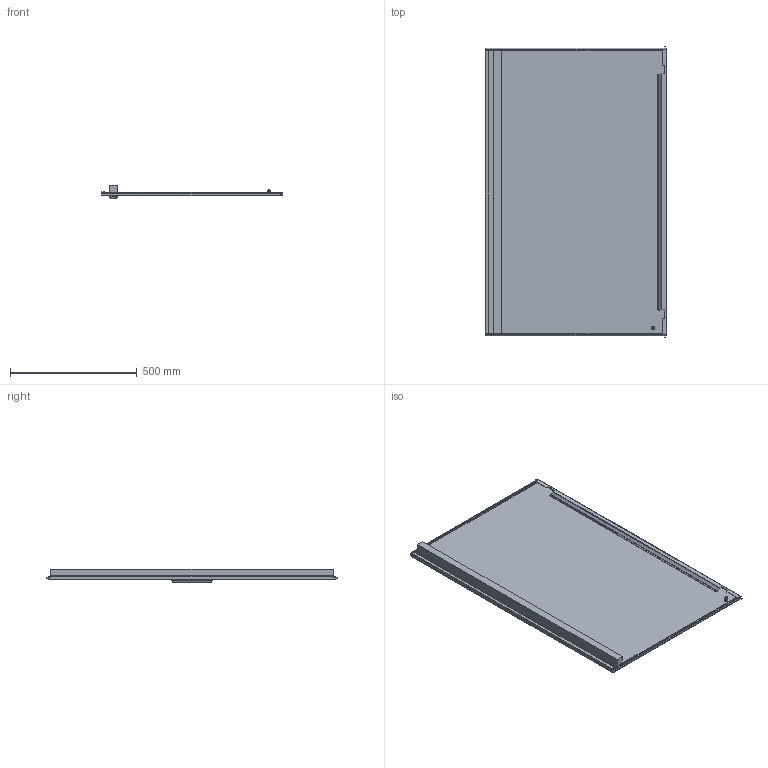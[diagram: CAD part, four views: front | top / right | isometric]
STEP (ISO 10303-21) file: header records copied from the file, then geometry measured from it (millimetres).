
FILE_DESCRIPTION (( 'STEP AP203' ), '1' );
FILE_NAME ('D 120.80 I Äâåðü òåëåêîììóíèêàöèîííàÿ.STEP', '2013-01-11T17:57:20', ( '' ), ( '' ), 'SwSTEP 2.0', 'SolidWorks 2012', '' );
FILE_SCHEMA (( 'CONFIG_CONTROL_DESIGN' ));
Length unit declared in the file: millimetre
Products named in the file (1): D 120.80 I Äâåðü òåëåêîììóíèêàöèîííàÿ
Bounding box: 718 x 1150.5 x 55 mm (x, y, z)
Volume: 2784355.5 mm3; surface area: 1933785.7 mm2
Topology: 3 solids, 3 shells, 175 faces, 406 edges, 226 vertices
Faces by surface type: cylinder 70, plane 65, sphere 24, cone 12, torus 4
Entity records: 4827 total; most frequent: DIRECTION 900, CARTESIAN_POINT 788, ORIENTED_EDGE 772, EDGE_CURVE 386, AXIS2_PLACEMENT_3D 338, VERTEX_POINT 226, LINE 224, VECTOR 224
